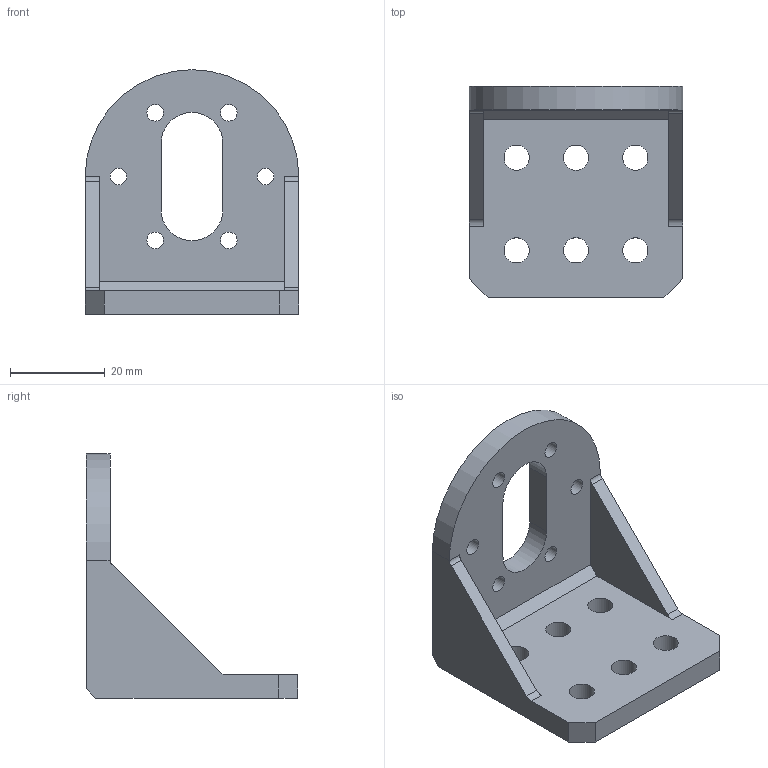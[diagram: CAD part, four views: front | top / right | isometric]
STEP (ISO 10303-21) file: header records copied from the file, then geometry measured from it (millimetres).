
FILE_DESCRIPTION(/* description */ (''),/* implementation_level */ '2;1');
FILE_NAME(/* name */ 'MM-JGB37 v4.stp',/* time_stamp */ '2025-05-25T17:06:53+02:00',/* author */ ('R5800u'),/* organization */ (''),/* preprocessor_version */ 'ST-DEVELOPER v20',/* originating_system */ 'Autodesk Inventor 2025',/* authorisation */ '');
FILE_SCHEMA (('AUTOMOTIVE_DESIGN { 1 0 10303 214 3 1 1 }'));
Length unit declared in the file: millimetre
Products named in the file (1): MM-JGB37
Bounding box: 45 x 44.5 x 51.5 mm (x, y, z)
Volume: 18444.3 mm3; surface area: 10052 mm2
Topology: 1 solids, 1 shells, 37 faces, 103 edges, 68 vertices
Faces by surface type: cylinder 19, plane 18
Full cylindrical faces by diameter (mm): 3.5 x6, 5.3 x6
Entity records: 1303 total; most frequent: DIRECTION 217, CARTESIAN_POINT 209, ORIENTED_EDGE 206, EDGE_CURVE 103, AXIS2_PLACEMENT_3D 76, VERTEX_POINT 68, LINE 65, VECTOR 65
